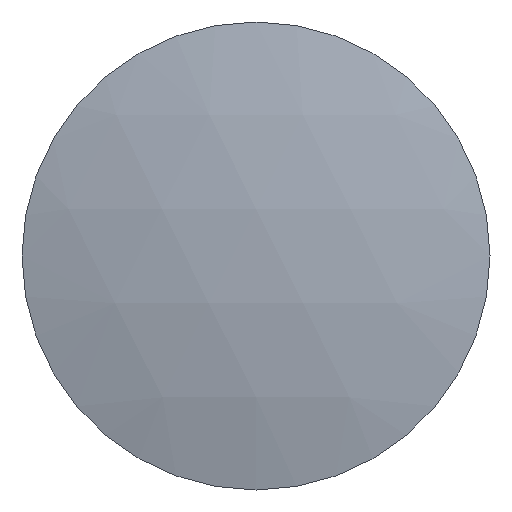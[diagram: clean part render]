
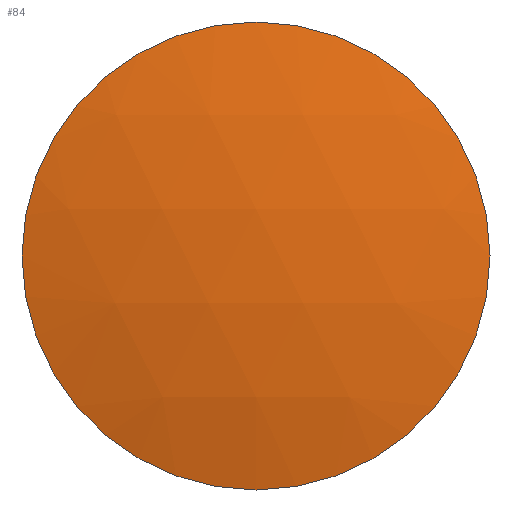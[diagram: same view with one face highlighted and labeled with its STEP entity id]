
A CAD part, front view. The second image highlights one B-rep face of the part: STEP entity #84.
In plain terms, the highlighted spherical face has radius 103.8 mm.
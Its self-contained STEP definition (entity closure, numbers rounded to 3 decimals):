
#68=CARTESIAN_POINT('',(0.0,97.7,0.0));
#69=DIRECTION('',(0.0,0.0,1.0));
#70=DIRECTION('',(1.0,0.0,0.0));
#71=AXIS2_PLACEMENT_3D('',#68,#69,#70);
#72=SPHERICAL_SURFACE('',#71,103.8);
#73=CARTESIAN_POINT('',(-25.,-3.044,0.0));
#74=VERTEX_POINT('',#73);
#75=CARTESIAN_POINT('',(0.0,-3.044,0.0));
#76=DIRECTION('',(0.0,1.0,0.0));
#77=DIRECTION('',(-1.0,0.0,0.0));
#78=AXIS2_PLACEMENT_3D('',#75,#76,#77);
#79=CIRCLE('',#78,25.);
#80=EDGE_CURVE('',#74,#74,#79,.T.);
#81=ORIENTED_EDGE('',*,*,#80,.F.);
#82=EDGE_LOOP('',(#81));
#83=FACE_OUTER_BOUND('',#82,.T.);
#84=ADVANCED_FACE('',(#83),#72,.T.);
